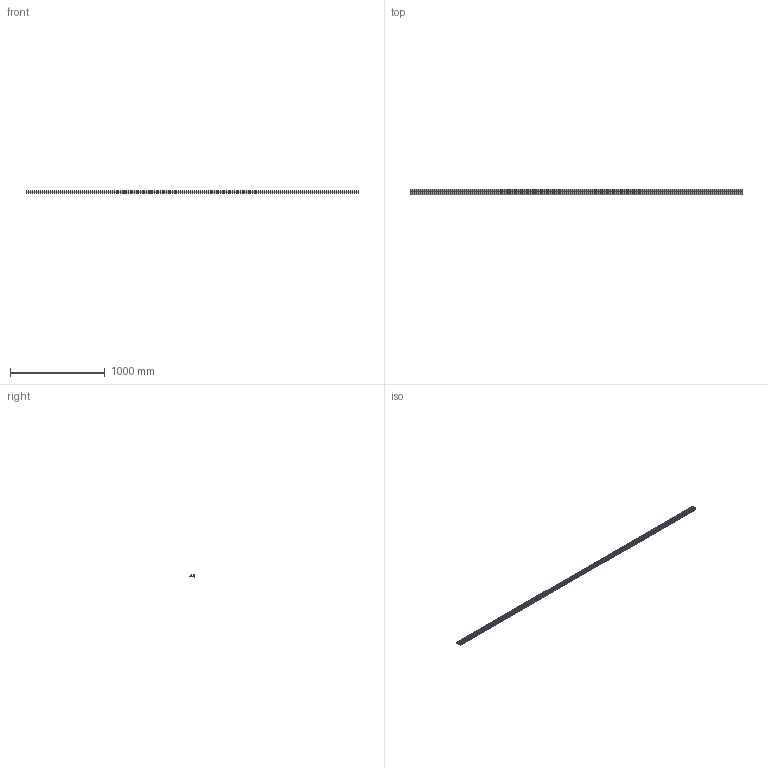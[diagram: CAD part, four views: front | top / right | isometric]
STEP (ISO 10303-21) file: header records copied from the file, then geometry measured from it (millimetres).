
FILE_DESCRIPTION(('STEP AP242'),'1');
FILE_NAME('OPO_51.047.12_volu_schn_3d.stp','2026-01-30T20:43:40',(' '),(' '),'Spatial InterOp 3D',' ',' ');
FILE_SCHEMA(('AP242_MANAGED_MODEL_BASED_3D_ENGINEERING_MIM_LF {1 0 10303 442 1 1 4}'));
Length unit declared in the file: millimetre
Products named in the file (1): 1
Bounding box: 3500 x 57 x 24.5 mm (x, y, z)
Volume: 972385.4 mm3; surface area: 1127170.3 mm2
Topology: 1 solids, 1 shells, 102 faces, 700 edges, 1020 vertices
Faces by surface type: plane 78, cylinder 24
Entity records: 9160 total; most frequent: DIRECTION 1040, CARTESIAN_POINT 994, ORIENTED_EDGE 570, LINE 568, VECTOR 568, STYLED_ITEM 517, PRESENTATION_STYLE_ASSIGNMENT 517, COLOUR_RGB 517
